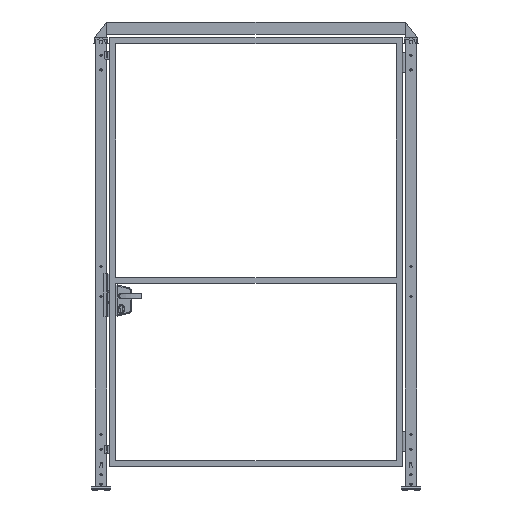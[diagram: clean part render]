
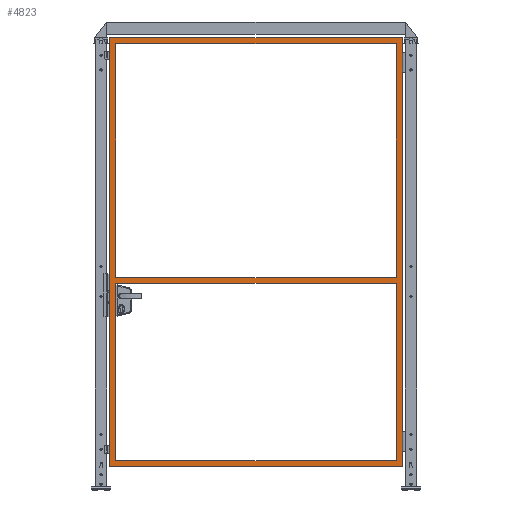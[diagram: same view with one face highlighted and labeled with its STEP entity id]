
A CAD part, top view. The second image highlights one B-rep face of the part: STEP entity #4823.
In plain terms, the highlighted planar face has unit normal (0, 0, 1).
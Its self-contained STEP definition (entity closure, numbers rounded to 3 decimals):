
#4823=ADVANCED_FACE('',(#9878,#9879,#9880),#9881,.F.);
#9878=FACE_BOUND('',#17852,.T.);
#9879=FACE_OUTER_BOUND('',#17853,.T.);
#9880=FACE_BOUND('',#17854,.T.);
#9881=PLANE('',#17855);
#17852=EDGE_LOOP('',(#32088,#32089,#32090,#32091));
#17853=EDGE_LOOP('',(#32092,#32093,#32094,#32095));
#17854=EDGE_LOOP('',(#32096,#32097,#32098,#32099));
#17855=AXIS2_PLACEMENT_3D('',#32100,#32101,#32102);
#32088=ORIENTED_EDGE('',*,*,#37969,.F.);
#32089=ORIENTED_EDGE('',*,*,#37975,.T.);
#32090=ORIENTED_EDGE('',*,*,#37997,.T.);
#32091=ORIENTED_EDGE('',*,*,#38002,.F.);
#32092=ORIENTED_EDGE('',*,*,#38013,.F.);
#32093=ORIENTED_EDGE('',*,*,#38007,.F.);
#32094=ORIENTED_EDGE('',*,*,#37977,.F.);
#32095=ORIENTED_EDGE('',*,*,#38011,.F.);
#32096=ORIENTED_EDGE('',*,*,#37999,.F.);
#32097=ORIENTED_EDGE('',*,*,#37994,.F.);
#32098=ORIENTED_EDGE('',*,*,#38005,.T.);
#32099=ORIENTED_EDGE('',*,*,#38014,.T.);
#32100=CARTESIAN_POINT('',(765.0,135.0,15.0));
#32101=DIRECTION('',(0.,0.0,-1.0));
#32102=DIRECTION('',(-1.0,0.0,0.));
#37969=EDGE_CURVE('',#46828,#46831,#46832,.T.);
#37975=EDGE_CURVE('',#46828,#46839,#46841,.T.);
#37977=EDGE_CURVE('',#46843,#46844,#46845,.T.);
#37994=EDGE_CURVE('',#46871,#46869,#46873,.T.);
#37997=EDGE_CURVE('',#46839,#46875,#46877,.T.);
#37999=EDGE_CURVE('',#46869,#46879,#46880,.T.);
#38002=EDGE_CURVE('',#46831,#46875,#46883,.T.);
#38005=EDGE_CURVE('',#46871,#46885,#46887,.T.);
#38007=EDGE_CURVE('',#46844,#46889,#46890,.T.);
#38011=EDGE_CURVE('',#46893,#46843,#46895,.T.);
#38013=EDGE_CURVE('',#46889,#46893,#46897,.T.);
#38014=EDGE_CURVE('',#46885,#46879,#46898,.T.);
#46828=VERTEX_POINT('',#60680);
#46831=VERTEX_POINT('',#60684);
#46832=LINE('',#60685,#60686);
#46839=VERTEX_POINT('',#60696);
#46841=LINE('',#60699,#60700);
#46843=VERTEX_POINT('',#60702);
#46844=VERTEX_POINT('',#60703);
#46845=LINE('',#60704,#60705);
#46869=VERTEX_POINT('',#60741);
#46871=VERTEX_POINT('',#60744);
#46873=LINE('',#60747,#60748);
#46875=VERTEX_POINT('',#60750);
#46877=LINE('',#60753,#60754);
#46879=VERTEX_POINT('',#60756);
#46880=LINE('',#60757,#60758);
#46883=LINE('',#60762,#60763);
#46885=VERTEX_POINT('',#60765);
#46887=LINE('',#60768,#60769);
#46889=VERTEX_POINT('',#60771);
#46890=LINE('',#60772,#60773);
#46893=VERTEX_POINT('',#60777);
#46895=LINE('',#60780,#60781);
#46897=LINE('',#60783,#60784);
#46898=LINE('',#60785,#60786);
#60680=CARTESIAN_POINT('',(1485.0,2290.0,15.));
#60684=CARTESIAN_POINT('',(45.,2290.0,15.0));
#60685=CARTESIAN_POINT('',(765.0,2290.0,15.0));
#60686=VECTOR('',#67067,1.0);
#60696=CARTESIAN_POINT('',(1485.0,1090.0,15.));
#60699=CARTESIAN_POINT('',(1485.0,1220.0,15.));
#60700=VECTOR('',#67072,1.0);
#60702=CARTESIAN_POINT('',(15.0,120.0,15.0));
#60703=CARTESIAN_POINT('',(15.,2320.0,15.0));
#60704=CARTESIAN_POINT('',(15.0,135.0,15.0));
#60705=VECTOR('',#67073,1.0);
#60741=CARTESIAN_POINT('',(45.,1060.0,15.0));
#60744=CARTESIAN_POINT('',(1485.0,1060.0,15.));
#60747=CARTESIAN_POINT('',(765.0,1060.0,15.0));
#60748=VECTOR('',#67088,1.0);
#60750=CARTESIAN_POINT('',(45.,1090.0,15.0));
#60753=CARTESIAN_POINT('',(765.0,1090.0,15.0));
#60754=VECTOR('',#67090,1.0);
#60756=CARTESIAN_POINT('',(45.0,150.0,15.0));
#60757=CARTESIAN_POINT('',(45.,1220.0,15.0));
#60758=VECTOR('',#67091,1.0);
#60762=CARTESIAN_POINT('',(45.,1220.0,15.0));
#60763=VECTOR('',#67093,1.0);
#60765=CARTESIAN_POINT('',(1485.0,150.0,15.));
#60768=CARTESIAN_POINT('',(1485.0,1220.0,15.));
#60769=VECTOR('',#67095,1.0);
#60771=CARTESIAN_POINT('',(1515.0,2320.0,15.));
#60772=CARTESIAN_POINT('',(30.,2320.0,15.0));
#60773=VECTOR('',#67096,1.0);
#60777=CARTESIAN_POINT('',(1515.0,120.0,15.));
#60780=CARTESIAN_POINT('',(765.0,120.0,15.0));
#60781=VECTOR('',#67099,1.0);
#60783=CARTESIAN_POINT('',(1515.0,1220.0,15.));
#60784=VECTOR('',#67100,1.0);
#60785=CARTESIAN_POINT('',(765.0,150.0,15.0));
#60786=VECTOR('',#67101,1.0);
#67067=DIRECTION('',(-1.0,0.0,0.));
#67072=DIRECTION('',(0.,-1.0,0.));
#67073=DIRECTION('',(0.0,1.0,0.0));
#67088=DIRECTION('',(-1.0,0.0,0.));
#67090=DIRECTION('',(-1.0,0.0,0.));
#67091=DIRECTION('',(0.,-1.0,0.));
#67093=DIRECTION('',(0.,-1.0,0.));
#67095=DIRECTION('',(0.,-1.0,0.));
#67096=DIRECTION('',(1.0,0.,0.));
#67099=DIRECTION('',(-1.0,0.0,0.));
#67100=DIRECTION('',(0.,-1.0,0.));
#67101=DIRECTION('',(-1.0,0.0,0.));
